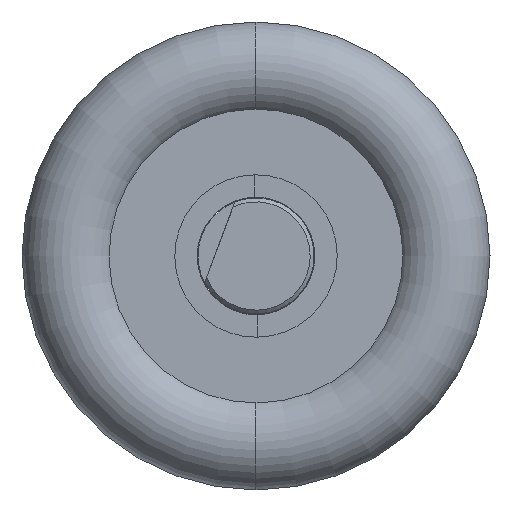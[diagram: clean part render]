
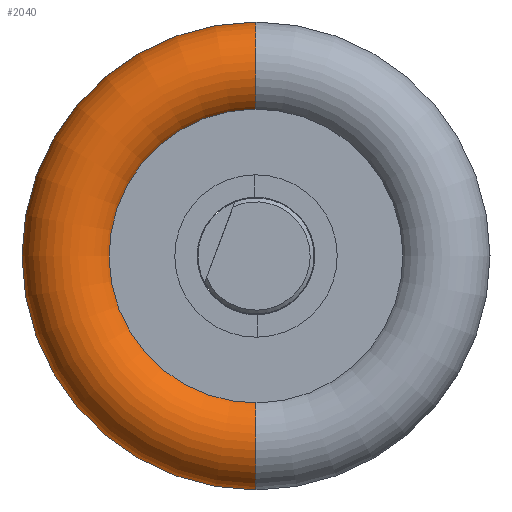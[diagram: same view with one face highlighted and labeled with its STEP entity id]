
A CAD part, left-side view. The second image highlights one B-rep face of the part: STEP entity #2040.
In plain terms, the highlighted toroidal (fillet/blend) face has major radius 24.052 mm and minor radius 6.2 mm.
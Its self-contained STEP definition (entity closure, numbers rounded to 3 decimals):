
#4 = AXIS2_PLACEMENT_3D ( 'NONE', #2055, #23, #1884 ) ;
#23 = DIRECTION ( 'NONE',  ( 1., 0., 0. ) ) ;
#57 = EDGE_CURVE ( 'NONE', #1275, #263, #1804, .T. ) ;
#82 = DIRECTION ( 'NONE',  ( 0., 1., 0. ) ) ;
#116 = AXIS2_PLACEMENT_3D ( 'NONE', #1558, #1100, #1627 ) ;
#164 = EDGE_CURVE ( 'NONE', #615, #228, #1689, .T. ) ;
#226 = CARTESIAN_POINT ( 'NONE',  ( 7055.669, -496.359, 30.252 ) ) ;
#228 = VERTEX_POINT ( 'NONE', #1946 ) ;
#263 = VERTEX_POINT ( 'NONE', #226 ) ;
#467 = CARTESIAN_POINT ( 'NONE',  ( 7055.669, -496.359, -30.252 ) ) ;
#483 = CIRCLE ( 'NONE', #2008, 6.2 ) ;
#484 = CARTESIAN_POINT ( 'NONE',  ( 7055.669, -496.359, 24.052 ) ) ;
#513 = FACE_OUTER_BOUND ( 'NONE', #1953, .T. ) ;
#524 = DIRECTION ( 'NONE',  ( 0., -1., 0. ) ) ;
#533 = DIRECTION ( 'NONE',  ( 0., 0., -1. ) ) ;
#615 = VERTEX_POINT ( 'NONE', #1831 ) ;
#893 = EDGE_CURVE ( 'NONE', #228, #263, #1078, .T. ) ;
#1020 = DIRECTION ( 'NONE',  ( 0., 0., -1. ) ) ;
#1071 = TOROIDAL_SURFACE ( 'NONE', #116, 24.052, 6.2 ) ;
#1078 = CIRCLE ( 'NONE', #2036, 6.2 ) ;
#1100 = DIRECTION ( 'NONE',  ( 1., 0., 0. ) ) ;
#1275 = VERTEX_POINT ( 'NONE', #467 ) ;
#1394 = EDGE_CURVE ( 'NONE', #615, #1275, #483, .T. ) ;
#1404 = AXIS2_PLACEMENT_3D ( 'NONE', #1695, #1841, #533 ) ;
#1516 = ORIENTED_EDGE ( 'NONE', *, *, #57, .F. ) ;
#1558 = CARTESIAN_POINT ( 'NONE',  ( 7055.669, -496.359, 0. ) ) ;
#1627 = DIRECTION ( 'NONE',  ( 0., 0., -1. ) ) ;
#1689 = CIRCLE ( 'NONE', #1404, 17.952 ) ;
#1695 = CARTESIAN_POINT ( 'NONE',  ( 7054.56, -496.359, 0. ) ) ;
#1804 = CIRCLE ( 'NONE', #4, 30.252 ) ;
#1831 = CARTESIAN_POINT ( 'NONE',  ( 7054.56, -496.359, -17.952 ) ) ;
#1841 = DIRECTION ( 'NONE',  ( 1., 0., 0. ) ) ;
#1884 = DIRECTION ( 'NONE',  ( 0., 0., -1. ) ) ;
#1890 = CARTESIAN_POINT ( 'NONE',  ( 7055.669, -496.359, -24.052 ) ) ;
#1908 = ORIENTED_EDGE ( 'NONE', *, *, #893, .T. ) ;
#1940 = DIRECTION ( 'NONE',  ( 0., 0., 1. ) ) ;
#1946 = CARTESIAN_POINT ( 'NONE',  ( 7054.56, -496.359, 17.952 ) ) ;
#1953 = EDGE_LOOP ( 'NONE', ( #1982, #1908, #1516, #2091 ) ) ;
#1982 = ORIENTED_EDGE ( 'NONE', *, *, #164, .T. ) ;
#2008 = AXIS2_PLACEMENT_3D ( 'NONE', #1890, #524, #1020 ) ;
#2036 = AXIS2_PLACEMENT_3D ( 'NONE', #484, #82, #1940 ) ;
#2040 = ADVANCED_FACE ( 'NONE', ( #513 ), #1071, .T. ) ;
#2055 = CARTESIAN_POINT ( 'NONE',  ( 7055.669, -496.359, 0. ) ) ;
#2091 = ORIENTED_EDGE ( 'NONE', *, *, #1394, .F. ) ;
